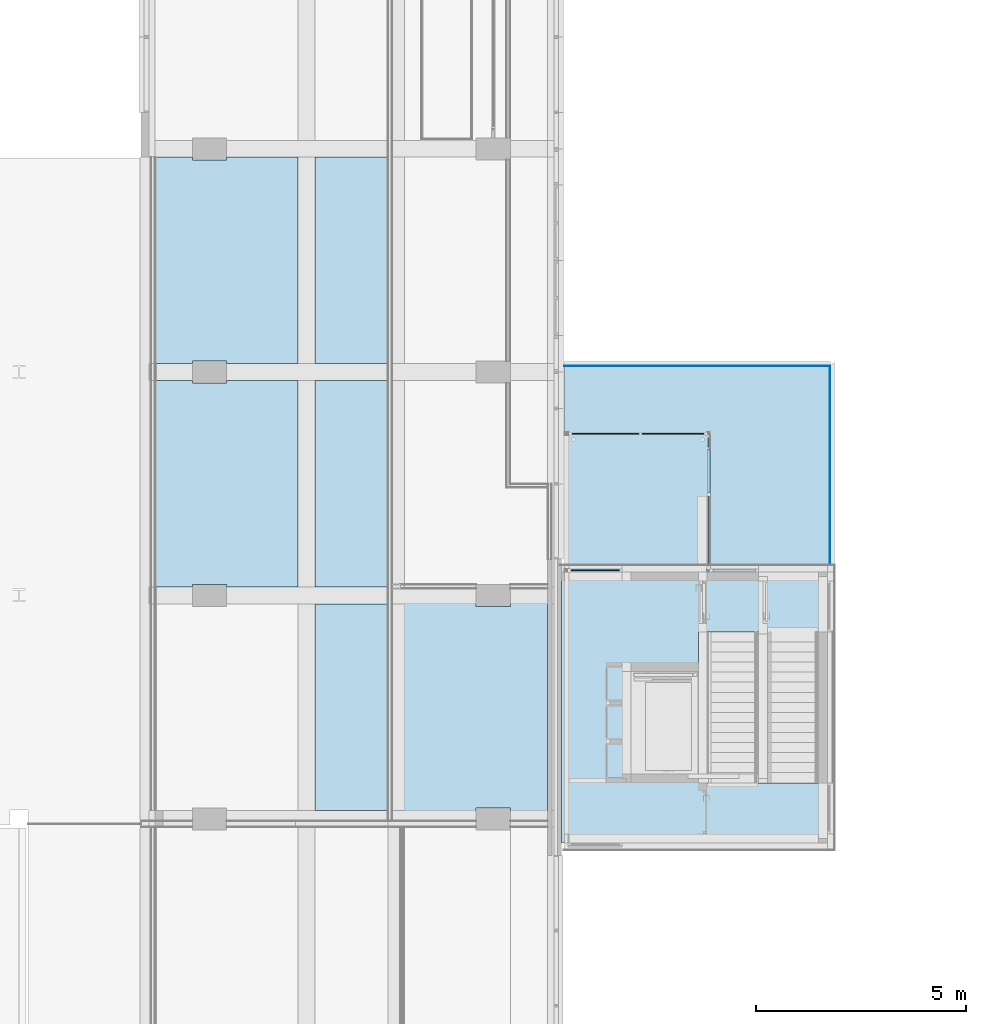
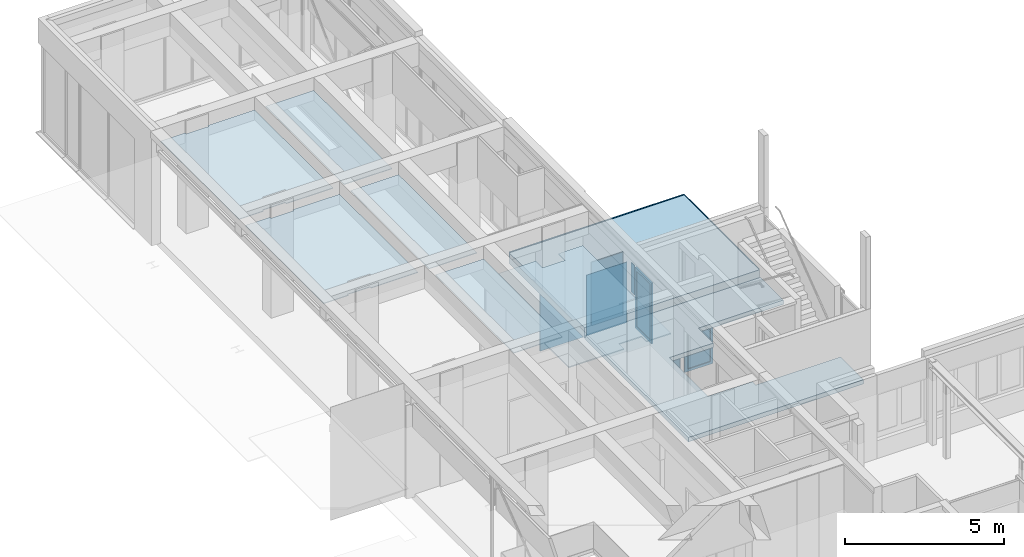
# One storey, part 35 of 117: 8 plates, 8 slabs, 5 elements without a shape of their own.
"""IFC2X3 building model written with IfcOpenShell, lengths in millimetres."""

from ifc_helpers import new_model, entity, si_unit, converted_unit, derived_unit, money_unit, direction, frame, origin_with_axes, place, context, subcontext, project, spatial, faceted_brep, material, type_object, element, aggregate, save


model = new_model("IFC2X3")

# Units and contexts
model_context = context("Model", 3, precision=0.01, world=origin_with_axes(), true_north=direction((0.0, 1.0)))
body_context = subcontext(model_context, "Body", "Model", "MODEL_VIEW")
ifc_project = project(units=[si_unit("LENGTHUNIT", "METRE", prefix="MILLI"), si_unit("AREAUNIT", "SQUARE_METRE"), si_unit("VOLUMEUNIT", "CUBIC_METRE"), converted_unit("PLANEANGLEUNIT", "DEGREE", entity("IfcPlaneAngleMeasure", 0.0174532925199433), si_unit("PLANEANGLEUNIT", "RADIAN"), dimensions=[0, 0, 0, 0, 0, 0, 0]), money_unit("EUR"), converted_unit("TIMEUNIT", "Year", entity("IfcTimeMeasure", 31557600.0), si_unit("TIMEUNIT", "SECOND"), dimensions=[0, 0, 1, 0, 0, 0, 0]), si_unit("MASSUNIT", "GRAM", prefix="KILO"), si_unit("THERMODYNAMICTEMPERATUREUNIT", "DEGREE_CELSIUS"), si_unit("LUMINOUSINTENSITYUNIT", "LUMEN"), si_unit("ENERGYUNIT", "JOULE", prefix="MEGA"), derived_unit("THERMALCONDUCTANCEUNIT", [(si_unit("POWERUNIT", "WATT"), 1), (si_unit("LENGTHUNIT", "METRE"), -1), (si_unit("THERMODYNAMICTEMPERATUREUNIT", "KELVIN"), -1)]), derived_unit("SPECIFICHEATCAPACITYUNIT", [(si_unit("ENERGYUNIT", "JOULE"), 1), (si_unit("MASSUNIT", "GRAM", prefix="KILO"), -1), (si_unit("THERMODYNAMICTEMPERATUREUNIT", "KELVIN"), -1)]), derived_unit("MASSDENSITYUNIT", [(si_unit("MASSUNIT", "GRAM", prefix="KILO"), 1), (si_unit("VOLUMEUNIT", "CUBIC_METRE"), -1)])], contexts=[model_context])

# Site, building, storey
site_placement = place(None, origin_with_axes())
site = spatial("IfcSite", under=ifc_project, at=site_placement, Name="Site", CompositionType="ELEMENT")
building_placement = place(site_placement, origin_with_axes())
building = spatial("IfcBuilding", under=site, at=building_placement, Name="Naam gebouw", CompositionType="ELEMENT")
storey_placement = place(building_placement, frame((0.0, 0.0, 4150.0), z_axis=(0.0, 0.0, 1.0), x_axis=(1.0, 0.0, 0.0)))
storey = spatial("IfcBuildingStorey", under=building, at=storey_placement, Name="1e verdieping N", CompositionType="ELEMENT", Elevation=4150.0)

# Slabs
ifc_material_1 = material(Name="ALG - BINNENAFWERKING")
slab_type_1 = type_object("IfcSlabType", Name="ALG - BINNENAFWERKING 40", PredefinedType="NOTDEFINED")
slab_1_placement = place(storey_placement, frame((29906.0, 38778.41242510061, 2760.0), z_axis=(0.0, 0.0, 1.0), x_axis=(1.0, 0.0, 0.0)))
element("IfcSlab", 1, at=slab_1_placement, inside=storey, type_object=slab_type_1, material=ifc_material_1, Name="_Vloer-x", PredefinedType="NOTDEFINED", context=body_context, shape_type="Brep", body=[
    faceted_brep([(-1710.000000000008, 0.0, 0.0), (-3714.000035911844, 0.0, 0.0), (-3714.000035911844, 0.0, 40.00000000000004), (-1710.000000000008, 0.0, 40.00000000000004), (-1710.000000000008, -5542.500000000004, 0.0), (-3714.000035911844, -5542.500000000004, 0.0), (-1710.000000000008, -425.0000000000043, 0.0), (-890.0000000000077, -425.0000000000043, 0.0), (-890.0000000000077, 0.0, 0.0), (0.0, 0.0, 0.0), (0.0, -5542.500000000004, 0.0), (-890.0000000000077, -5542.499997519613, 0.0), (-890.0000000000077, -5229.999999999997, 0.0), (-1710.000000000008, -5229.999999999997, 0.0), (-3714.000035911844, -5542.500000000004, 40.00000000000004), (-1710.000000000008, -5542.500000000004, 40.00000000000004), (-1710.000000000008, -5229.999999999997, 40.00000000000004), (-890.0000000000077, -5229.999999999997, 40.00000000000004), (-890.0000000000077, -5542.499997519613, 40.00000000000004), (0.0, -5542.500000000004, 40.00000000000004), (0.0, 0.0, 40.00000000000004), (-890.0000000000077, 0.0, 40.00000000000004), (-890.0000000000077, -425.0000000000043, 40.00000000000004), (-1710.000000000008, -425.0000000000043, 40.00000000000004)], [[[0, 1, 2, 3]], [[4, 5, 1, 0, 6, 7, 8, 9, 10, 11, 12, 13]], [[5, 14, 2, 1]], [[3, 2, 14, 15, 16, 17, 18, 19, 20, 21, 22, 23]], [[3, 23, 6, 0]], [[15, 14, 5, 4]], [[23, 22, 7, 6]], [[22, 21, 8, 7]], [[21, 20, 9, 8]], [[20, 19, 10, 9]], [[19, 18, 11, 10]], [[18, 17, 12, 11]], [[17, 16, 13, 12]], [[16, 15, 4, 13]]]),
])
ifc_material_2 = material(Name="beton")
slab_type_2 = type_object("IfcSlabType", Name="Floor:23_3B_beton 170mm", PredefinedType="FLOOR")
slab_2_placement = place(storey_placement, frame((36581.00000002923, 32711.91242628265, -1000.0), z_axis=(0.0, 0.0, 1.0), x_axis=(1.0, 0.0, 0.0)))
element("IfcSlab", 2, at=slab_2_placement, inside=storey, type_object=slab_type_2, material=ifc_material_2, Name="Floor:23_3B_beton 170mm", PredefinedType="FLOOR", context=body_context, shape_type="Brep", body=[
    faceted_brep([(0.0, 6467.999999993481, -169.9999999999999), (-6351.000000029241, 6467.999999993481, -170.0000000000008), (-6351.000000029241, 6467.999999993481, 0.0), (0.0, 6467.999999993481, 0.0), (0.0, 0.0, -169.9999999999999), (-6351.000000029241, 0.0, -169.9999999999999), (0.0, 5033.999999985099, -169.9999999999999), (-3081.999999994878, 5033.999999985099, -169.9999999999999), (-3082.000000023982, 4088.000000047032, -169.9999999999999), (-4681.999999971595, 4087.999999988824, -169.9999999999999), (-4682.000000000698, 1648.000000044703, -169.9999999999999), (-3081.999999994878, 1647.999999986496, -169.9999999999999), (-3081.999999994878, 1434.000000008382, -169.9999999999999), (0.0, 1434.000000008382, -169.9999999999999), (-6351.000000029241, 0.0, 0.0), (0.0, 0.0, 0.0), (0.0, 1434.000000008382, 0.0), (-3081.999999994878, 1434.000000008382, 0.0), (-3081.999999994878, 1647.999999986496, 0.0), (-4682.000000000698, 1648.000000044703, 0.0), (-4681.999999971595, 4087.999999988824, 0.0), (-3082.000000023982, 4088.000000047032, 0.0), (-3081.999999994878, 5033.999999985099, 0.0), (0.0, 5033.999999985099, 0.0)], [[[0, 1, 2, 3]], [[4, 5, 1, 0, 6, 7, 8, 9, 10, 11, 12, 13]], [[5, 14, 2, 1]], [[3, 2, 14, 15, 16, 17, 18, 19, 20, 21, 22, 23]], [[3, 23, 6, 0]], [[15, 14, 5, 4]], [[23, 22, 7, 6]], [[22, 21, 8, 7]], [[21, 20, 9, 8]], [[20, 19, 10, 9]], [[19, 18, 11, 10]], [[18, 17, 12, 11]], [[17, 16, 13, 12]], [[16, 15, 4, 13]]]),
])

# Plate
ifc_material_3 = material(Name="staal geanodiseerd RAL 7024")
plate_type_1 = type_object("IfcPlateType", Name="Strip Dak Entree V:Strip Dak Entree V", PredefinedType="NOTDEFINED")
plate_1_placement = place(storey_placement, frame((28651.00001269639, 22625.91242505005, 0.0), z_axis=(0.0, 0.0, 1.0), x_axis=(0.0, 1.0, 0.0)))
element("IfcPlate", 3, at=plate_1_placement, inside=storey, type_object=plate_type_1, material=ifc_material_3, Name="Strip Dak Entree V:Strip Dak Entree V", context=body_context, shape_type="Brep", body=[
    faceted_brep([(21470.00000128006, -7999.999987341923, -1000.0), (21470.00000128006, -1652.699987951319, -1000.0), (21470.00000128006, -1652.699987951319, -800.0), (21470.00000128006, -7999.999987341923, -800.0), (16725.00000128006, -7999.999987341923, -1000.0), (16725.00000128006, -7989.999987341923, -1000.0), (21460.00000128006, -7989.999987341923, -1000.0), (21460.00000128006, -1652.699987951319, -1000.0), (21460.00000128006, -1652.699987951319, -800.0), (21460.00000128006, -7989.999987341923, -800.0), (16725.00000128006, -7989.999987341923, -800.0), (16725.00000128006, -7999.999987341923, -800.0)], [[[0, 1, 2, 3]], [[0, 4, 5, 6, 7, 1]], [[1, 7, 8, 2]], [[3, 2, 8, 9, 10, 11]], [[4, 0, 3, 11]], [[5, 4, 11, 10]], [[6, 5, 10, 9]], [[7, 6, 9, 8]]]),
])

# Slabs
slab_type_3 = type_object("IfcSlabType", Name="ALG - BINNENAFWERKING 25", PredefinedType="NOTDEFINED")
slab_3_placement = place(storey_placement, frame((24349.99999999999, 33485.91242510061, 3815.0), z_axis=(0.0, 0.0, 1.0), x_axis=(1.0, 0.0, 0.0)))
element("IfcSlab", 4, at=slab_3_placement, inside=storey, type_object=slab_type_3, material=ifc_material_1, Name="_Vloer-x", PredefinedType="NOTDEFINED", context=body_context, shape_type="Brep", body=[
    faceted_brep([(0.0, 0.0, 24.99999999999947), (0.0, 0.0, 0.0), (1741.999964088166, 0.0, 0.0), (1741.999964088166, 0.0, 24.99999999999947), (0.0, 4929.999999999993, 24.99999999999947), (0.0, 4929.999999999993, 0.0), (1741.999964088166, 4929.999999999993, 0.0), (1741.999964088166, 4929.999999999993, 24.99999999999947)], [[[0, 1, 2, 3]], [[4, 5, 1, 0]], [[2, 1, 5, 6]], [[3, 2, 6, 7]], [[4, 0, 3, 7]], [[7, 6, 5, 4]]]),
])
slab_4_placement = place(storey_placement, frame((24349.99999999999, 38815.91242510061, 3815.0), z_axis=(0.0, 0.0, 1.0), x_axis=(1.0, 0.0, 0.0)))
element("IfcSlab", 5, at=slab_4_placement, inside=storey, type_object=slab_type_3, material=ifc_material_1, Name="_Vloer-x", PredefinedType="NOTDEFINED", context=body_context, shape_type="Brep", body=[
    faceted_brep([(0.0, 0.0, 25.00000000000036), (0.0, 0.0, 0.0), (1741.999964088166, 0.0, 0.0), (1741.999964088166, 0.0, 25.00000000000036), (0.0, 4929.999999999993, 25.00000000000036), (0.0, 4929.999999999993, 0.0), (1741.999964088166, 4929.999999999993, 0.0), (1741.999964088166, 4929.999999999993, 25.00000000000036)], [[[0, 1, 2, 3]], [[4, 5, 1, 0]], [[2, 1, 5, 6]], [[3, 2, 6, 7]], [[4, 0, 3, 7]], [[7, 6, 5, 4]]]),
])
slab_5_placement = place(storey_placement, frame((26091.99996408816, 49075.9124251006, 3815.0), z_axis=(0.0, 0.0, 1.0), x_axis=(1.0, 0.0, 0.0)))
element("IfcSlab", 6, at=slab_5_placement, inside=storey, type_object=slab_type_3, material=ifc_material_1, Name="_Vloer-x", PredefinedType="NOTDEFINED", context=body_context, shape_type="Brep", body=[
    faceted_brep([(0.0, 0.0, 25.00000000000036), (0.0, 0.0, 0.0), (-1741.999964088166, 0.0, 0.0), (-1741.999964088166, 0.0, 25.00000000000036), (0.0, -4929.999999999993, 25.00000000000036), (0.0, -4929.999999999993, 0.0), (-1741.999964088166, -4929.999999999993, 0.0), (-1741.999964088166, -4929.999999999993, 25.00000000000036)], [[[0, 1, 2, 3]], [[4, 5, 1, 0]], [[2, 1, 5, 6]], [[3, 2, 6, 7]], [[4, 0, 3, 7]], [[7, 6, 5, 4]]]),
])
for number, where, z_axis, x_axis, name in (
    (7, (20536.0, 38815.91242510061, 3815.0), (0.0, 0.0, 1.0), (1.0, 0.0, 0.0), "_Vloer-x"),
    (8, (20536.0, 44145.91242510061, 3815.0), (0.0, 0.0, 1.0), (1.0, 0.0, 0.0), "_Vloer-x"),
):
    element("IfcSlab", number, at=place(storey_placement, frame(where, z_axis=z_axis, x_axis=x_axis)), inside=storey, type_object=slab_type_3, material=ifc_material_1, Name=name, PredefinedType="NOTDEFINED", context=body_context, shape_type="Brep", body=[
        faceted_brep([(0.0, 0.0, 25.00000000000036), (0.0, 0.0, 0.0), (890.0000000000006, 0.0, 0.0), (890.0000000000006, 0.0, 25.00000000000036), (0.0, 4929.999999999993, 25.00000000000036), (0.0, 4929.999999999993, 0.0), (890.0000000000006, 4929.999999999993, 0.0), (890.0000000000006, 4867.499999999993, 0.0), (1710.000000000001, 4867.499999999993, 0.0), (1710.000000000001, 4929.999999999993, 0.0), (3413.999999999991, 4929.999999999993, 0.0), (3413.999999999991, 0.0, 0.0), (1710.000000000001, 0.0, 0.0), (1710.000000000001, 62.5, 0.0), (890.0000000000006, 62.5, 0.0), (890.0000000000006, 62.5, 25.00000000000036), (1710.000000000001, 62.5, 25.00000000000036), (1710.000000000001, 0.0, 25.00000000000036), (3413.999999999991, 0.0, 25.00000000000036), (3413.999999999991, 4929.999999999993, 25.00000000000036), (1710.000000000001, 4929.999999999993, 25.00000000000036), (1710.000000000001, 4867.499999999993, 25.00000000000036), (890.0000000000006, 4867.499999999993, 25.00000000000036), (890.0000000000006, 4929.999999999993, 25.00000000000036)], [[[0, 1, 2, 3]], [[4, 5, 1, 0]], [[2, 1, 5, 6, 7, 8, 9, 10, 11, 12, 13, 14]], [[3, 2, 14, 15]], [[4, 0, 3, 15, 16, 17, 18, 19, 20, 21, 22, 23]], [[23, 6, 5, 4]], [[22, 7, 6, 23]], [[21, 8, 7, 22]], [[20, 9, 8, 21]], [[19, 10, 9, 20]], [[18, 11, 10, 19]], [[17, 12, 11, 18]], [[16, 13, 12, 17]], [[15, 14, 13, 16]]]),
    ])

# Roof, slab
roof_placement = place(storey_placement, frame((0.0, 0.0, -4150.0), z_axis=(0.0, 0.0, 1.0), x_axis=(1.0, 0.0, 0.0)))
roof = element("IfcRoof", 9, at=roof_placement, inside=storey, Name="Basic Roof:27_3B_houten balklaag", ObjectType="Basic Roof:27_3B_houten balklaag", ShapeType="NOTDEFINED")
ifc_material_4 = material(Name="IFC Building Material")
slab_type_4 = type_object("IfcSlabType", Name="IFC Building Material 410", PredefinedType="ROOF")
slab_6_placement = place(roof_placement, frame((36641.00000005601, 41718.41242624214, 2900.0), z_axis=(0.0, 0.0, 1.0), x_axis=(-1.0, 0.0, 0.0)))
slab_6 = element("IfcSlab", 10, at=slab_6_placement, type_object=slab_type_4, material=ifc_material_4, Name="Basic Roof:27_3B_houten balklaag", PredefinedType="ROOF", context=body_context, shape_type="Brep", body=[
    faceted_brep([(4.349232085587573e-08, -2367.499999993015, 410.0000000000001), (4.349232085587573e-08, -2367.499999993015, 0.0), (6337.299999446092, -2367.499999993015, 0.0), (6337.299999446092, -2367.499999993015, 410.0000000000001), (-4.349232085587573e-08, 2367.499999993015, 410.0000000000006), (-4.349232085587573e-08, 2367.499999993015, 0.0), (6337.299999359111, 2367.499999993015, 0.0), (6337.299999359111, 2367.499999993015, 410.0000000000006)], [[[0, 1, 2, 3]], [[4, 5, 1, 0]], [[2, 1, 5, 6]], [[3, 2, 6, 7]], [[4, 0, 3, 7]], [[7, 6, 5, 4]]]),
])
aggregate(roof, [slab_6])

# Curtain wall, plates
curtain_wall_type = type_object("IfcCurtainWallType", Name="Curtain Wall:21_CW_alu kozijn 070x065", PredefinedType="NOTDEFINED")
curtain_wall_1_placement = place(storey_placement, frame((0.0, 0.0, -4150.0), z_axis=(0.0, 0.0, 1.0), x_axis=(1.0, 0.0, 0.0)))
curtain_wall_1 = element("IfcCurtainWall", 11, at=curtain_wall_1_placement, inside=storey, type_object=curtain_wall_type, Name="Curtain Wall:21_CW_alu kozijn 070x065", ObjectType="Curtain Wall:21_CW_alu kozijn 070x065")
ifc_material_5 = material(Name="Glass")
plate_type_2 = type_object("IfcPlateType", Name="System Panel:31_CWP_alu glas_2", PredefinedType="CURTAIN_PANEL")
plate_2_placement = place(curtain_wall_1_placement, frame((31285.75000000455, 42476.91242629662, 450.0000000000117), z_axis=(0.0, 0.0, 1.0), x_axis=(-1.0, 0.0, 0.0)))
plate_2 = element("IfcPlate", 12, at=plate_2_placement, type_object=plate_type_2, material=ifc_material_5, Name="System Panel:31_CWP_alu glas_2", ObjectType="CURTAIN_PANEL", context=body_context, shape_type="Brep", body=[
    faceted_brep([(804.7500000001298, -12.00000000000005, 0.0), (804.7500000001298, 11.99999999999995, 0.0), (804.7500000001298, 11.99999999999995, 2330.000000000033), (804.7500000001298, -12.00000000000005, 2330.000000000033), (-804.7500000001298, -11.99999999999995, 0.0), (-804.7500000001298, 12.00000000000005, 0.0), (-804.7500000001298, 12.00000000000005, 2330.000000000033), (-804.7500000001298, -11.99999999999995, 2330.000000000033)], [[[0, 1, 2, 3]], [[0, 4, 5, 1]], [[1, 5, 6, 2]], [[3, 2, 6, 7]], [[4, 0, 3, 7]], [[5, 4, 7, 6]]]),
])
plate_type_3 = type_object("IfcPlateType", Name="System Panel:31_CWP_alu glas_2", PredefinedType="CURTAIN_PANEL")
plate_3_placement = place(curtain_wall_1_placement, frame((32901.25000004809, 42476.91242629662, 450.0000000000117), z_axis=(0.0, 0.0, 1.0), x_axis=(-1.0, 0.0, 0.0)))
plate_3 = element("IfcPlate", 13, at=plate_3_placement, type_object=plate_type_3, material=ifc_material_5, Name="System Panel:31_CWP_alu glas_2", ObjectType="CURTAIN_PANEL", context=body_context, shape_type="Brep", body=[
    faceted_brep([(740.75, -12.00000000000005, 0.0), (740.75, 11.99999999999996, 0.0), (740.75, 11.99999999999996, 2330.000000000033), (740.75, -12.00000000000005, 2330.000000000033), (-740.75, -11.99999999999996, 0.0), (-740.75, 12.00000000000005, 0.0), (-740.75, 12.00000000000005, 2330.000000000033), (-740.75, -11.99999999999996, 2330.000000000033)], [[[0, 1, 2, 3]], [[0, 4, 5, 1]], [[1, 5, 6, 2]], [[3, 2, 6, 7]], [[4, 0, 3, 7]], [[5, 4, 7, 6]]]),
])
aggregate(curtain_wall_1, [plate_2, plate_3])

# Curtain wall, plate
curtain_wall_2_placement = place(storey_placement, frame((0.0, 0.0, -4150.0), z_axis=(0.0, 0.0, 1.0), x_axis=(1.0, 0.0, 0.0)))
curtain_wall_2 = element("IfcCurtainWall", 14, at=curtain_wall_2_placement, inside=storey, type_object=curtain_wall_type, Name="Curtain Wall:21_CW_alu kozijn 070x065", ObjectType="Curtain Wall:21_CW_alu kozijn 070x065")
plate_type_4 = type_object("IfcPlateType", Name="System Panel:31_CWP_alu glas_2", PredefinedType="CURTAIN_PANEL")
plate_4_placement = place(curtain_wall_2_placement, frame((31038.00000005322, 39212.41242636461, 3420.00000000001), z_axis=(0.0, 0.0, 1.0), x_axis=(-1.0, 0.0, 0.0)))
plate_4 = element("IfcPlate", 15, at=plate_4_placement, type_object=plate_type_4, material=ifc_material_5, Name="System Panel:31_CWP_alu glas_2", ObjectType="CURTAIN_PANEL", context=body_context, shape_type="Brep", body=[
    faceted_brep([(577.0000000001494, -12.00000000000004, 0.0), (577.0000000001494, 11.99999999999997, 0.0), (577.0000000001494, 11.99999999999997, 2429.999999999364), (577.0000000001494, -12.00000000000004, 2429.999999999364), (-577.0000000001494, -11.99999999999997, 0.0), (-577.0000000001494, 12.00000000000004, 0.0), (-577.0000000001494, 12.00000000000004, 2429.999999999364), (-577.0000000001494, -11.99999999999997, 2429.999999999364)], [[[0, 1, 2, 3]], [[0, 4, 5, 1]], [[1, 5, 6, 2]], [[3, 2, 6, 7]], [[4, 0, 3, 7]], [[5, 4, 7, 6]]]),
])
aggregate(curtain_wall_2, [plate_4])

# Curtain wall, plates
curtain_wall_3_placement = place(storey_placement, frame((0.0, 0.0, -4150.0), z_axis=(0.0, 0.0, 1.0), x_axis=(1.0, 0.0, 0.0)))
curtain_wall_3 = element("IfcCurtainWall", 16, at=curtain_wall_3_placement, inside=storey, type_object=curtain_wall_type, Name="Curtain Wall:21_CW_alu kozijn 070x065", ObjectType="Curtain Wall:21_CW_alu kozijn 070x065")
plate_type_5 = type_object("IfcPlateType", Name="System Panel:31_CWP_alu glas_2", PredefinedType="CURTAIN_PANEL")
plate_5_placement = place(curtain_wall_3_placement, frame((33745.50000004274, 40154.76242627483, 450.0000000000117), z_axis=(0.0, 0.0, 1.0), x_axis=(0.0, 1.0, 0.0)))
plate_5 = element("IfcPlate", 17, at=plate_5_placement, type_object=plate_type_5, material=ifc_material_5, Name="System Panel:31_CWP_alu glas_2", ObjectType="CURTAIN_PANEL", context=body_context, shape_type="Brep", body=[
    faceted_brep([(-839.8500000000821, -12.00000000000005, 0.0), (-839.8500000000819, -12.00000000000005, 2330.000000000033), (-839.8500000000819, 11.99999999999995, 2330.000000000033), (-839.8500000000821, 11.99999999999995, 0.0), (839.8500000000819, -11.99999999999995, 0.0), (839.8500000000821, -11.99999999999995, 2330.000000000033), (839.8500000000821, 12.00000000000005, 2330.000000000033), (839.8500000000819, 12.00000000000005, 0.0)], [[[0, 1, 2, 3]], [[0, 4, 5, 1]], [[1, 5, 6, 2]], [[3, 2, 6, 7]], [[4, 0, 3, 7]], [[5, 4, 7, 6]]]),
])
plate_type_6 = type_object("IfcPlateType", Name="30_3B_alu deur met glas:deur RAL 7024", PredefinedType="CURTAIN_PANEL")
plate_6_placement = place(curtain_wall_3_placement, frame((33745.50000004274, 41579.61242628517, 450.0000000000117), z_axis=(0.0, 0.0, 1.0), x_axis=(0.0, 1.0, 0.0)))
plate_6 = element("IfcPlate", 18, at=plate_6_placement, type_object=plate_type_6, material=ifc_material_4, Name="30_3B_alu deur met glas:deur RAL 7024", ObjectType="CURTAIN_PANEL", context=body_context, shape_type="Brep", body=[
    faceted_brep([(415.0000000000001, -10.5, 100.0), (415.0000000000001, 10.5, 100.0), (415.0000000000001, 10.5, 2230.00000000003), (415.0000000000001, -10.5, 2230.00000000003), (-415.0000000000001, -10.5, 100.0), (-415.0000000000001, 10.5, 100.0), (-415.0000000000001, 10.5, 2230.00000000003), (-415.0000000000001, -10.5, 2230.00000000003)], [[[0, 1, 2, 3]], [[0, 4, 5, 1]], [[1, 5, 6, 2]], [[3, 2, 6, 7]], [[4, 0, 3, 7]], [[5, 4, 7, 6]]]),
    faceted_brep([(-515.0, -30.0, 0.0), (-515.0, -30.0, 2330.0), (-515.0, 30.0, 2330.0), (-515.0, 30.0, 0.0), (515.00000387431, -30.0, 0.0), (515.00000387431, -30.0, 2330.0), (-415.00000029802, -30.0, 2230.00000029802), (415.00000417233, -30.0, 2230.00000029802), (415.00000417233, -30.0, 99.99999970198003), (-415.00000029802, -30.0, 99.99999970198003), (515.00000387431, 30.0, 2330.0), (515.00000387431, 30.0, 0.0), (-415.00000029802, 30.0, 2230.00000029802), (-415.00000029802, 30.0, 99.99999970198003), (415.00000417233, 30.0, 99.99999970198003), (415.00000417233, 30.0, 2230.00000029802)], [[[0, 1, 2, 3]], [[0, 4, 5, 1], [6, 7, 8, 9]], [[1, 5, 10, 2]], [[3, 2, 10, 11], [12, 13, 14, 15]], [[4, 0, 3, 11]], [[5, 4, 11, 10]], [[7, 6, 12, 15]], [[8, 7, 15, 14]], [[9, 8, 14, 13]], [[6, 9, 13, 12]]]),
])
plate_type_7 = type_object("IfcPlateType", Name="System Panel:31_CWP_alu glas_2", PredefinedType="CURTAIN_PANEL")
plate_7_placement = place(curtain_wall_3_placement, frame((33745.50000004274, 42269.51242634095, 1647.800000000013), z_axis=(0.0, 0.0, 1.0), x_axis=(0.0, 1.0, 0.0)))
plate_7 = element("IfcPlate", 19, at=plate_7_placement, type_object=plate_type_7, material=ifc_material_5, Name="System Panel:31_CWP_alu glas_2", ObjectType="CURTAIN_PANEL", context=body_context, shape_type="Brep", body=[
    faceted_brep([(104.8999999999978, -12.00000000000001, 0.0), (104.8999999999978, 11.99999999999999, 0.0), (104.8999999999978, 11.99999999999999, 1132.2), (104.8999999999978, -12.00000000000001, 1132.2), (-104.8999999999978, -11.99999999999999, 0.0), (-104.8999999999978, 12.00000000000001, 0.0), (-104.8999999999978, 12.00000000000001, 1132.2), (-104.8999999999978, -11.99999999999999, 1132.2)], [[[0, 1, 2, 3]], [[0, 4, 5, 1]], [[1, 5, 6, 2]], [[3, 2, 6, 7]], [[4, 0, 3, 7]], [[5, 4, 7, 6]]]),
])
aggregate(curtain_wall_3, [plate_5, plate_6, plate_7])

# Curtain wall, plate
curtain_wall_4_placement = place(storey_placement, frame((0.0, 0.0, -4150.0), z_axis=(0.0, 0.0, 1.0), x_axis=(1.0, 0.0, 0.0)))
curtain_wall_4 = element("IfcCurtainWall", 20, at=curtain_wall_4_placement, inside=storey, type_object=curtain_wall_type, Name="Curtain Wall:21_CW_alu kozijn 070x065", ObjectType="Curtain Wall:21_CW_alu kozijn 070x065")
plate_type_8 = type_object("IfcPlateType", Name="30_3B_alu deur met glas:deur RAL 7024", PredefinedType="CURTAIN_PANEL")
plate_8_placement = place(curtain_wall_4_placement, frame((34355.50000002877, 39212.4124263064, 450.0000000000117), z_axis=(0.0, 0.0, 1.0), x_axis=(1.0, 0.0, 0.0)))
plate_8 = element("IfcPlate", 21, at=plate_8_placement, type_object=plate_type_8, material=ifc_material_4, Name="30_3B_alu deur met glas:deur RAL 7024", ObjectType="CURTAIN_PANEL", context=body_context, shape_type="Brep", body=[
    faceted_brep([(-407.5000000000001, -10.5, 100.0), (407.5000000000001, -10.5, 100.0), (407.5000000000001, -10.5, 2230.00000000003), (-407.5000000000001, -10.5, 2230.00000000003), (-407.5000000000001, 10.5, 100.0), (407.5000000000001, 10.5, 100.0), (407.5000000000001, 10.5, 2230.00000000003), (-407.5000000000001, 10.5, 2230.00000000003)], [[[0, 1, 2, 3]], [[0, 4, 5, 1]], [[1, 5, 6, 2]], [[3, 2, 6, 7]], [[4, 0, 3, 7]], [[5, 4, 7, 6]]]),
    faceted_brep([(-507.5000004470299, -30.0, 2330.0), (507.4999999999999, -30.0, 2330.0), (507.4999999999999, 30.0, 2330.0), (-507.5000004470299, 30.0, 2330.0), (-507.5000004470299, -30.0, 0.0), (507.4999999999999, -30.0, 0.0), (407.50000029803, -30.0, 2230.00000029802), (407.50000029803, -30.0, 99.99999970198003), (-407.50000074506, -30.0, 99.99999970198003), (-407.50000074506, -30.0, 2230.00000029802), (507.4999999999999, 30.0, 0.0), (-507.5000004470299, 30.0, 0.0), (407.50000029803, 30.0, 2230.00000029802), (-407.50000074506, 30.0, 2230.00000029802), (-407.50000074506, 30.0, 99.99999970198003), (407.50000029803, 30.0, 99.99999970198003)], [[[0, 1, 2, 3]], [[0, 4, 5, 1], [6, 7, 8, 9]], [[1, 5, 10, 2]], [[3, 2, 10, 11], [12, 13, 14, 15]], [[4, 0, 3, 11]], [[5, 4, 11, 10]], [[7, 6, 12, 15]], [[8, 7, 15, 14]], [[9, 8, 14, 13]], [[6, 9, 13, 12]]]),
])
aggregate(curtain_wall_4, [plate_8])

save(model, "model.ifc")
